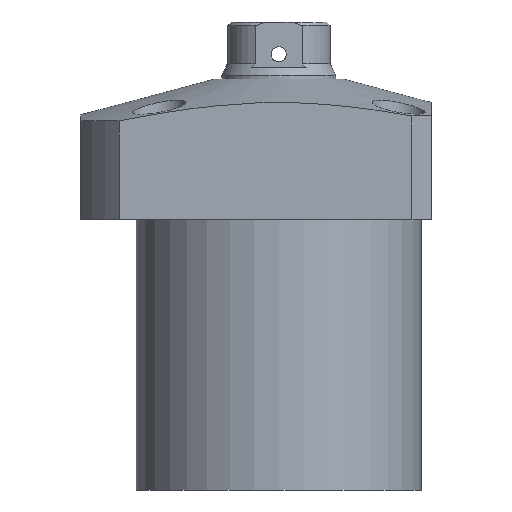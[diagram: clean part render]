
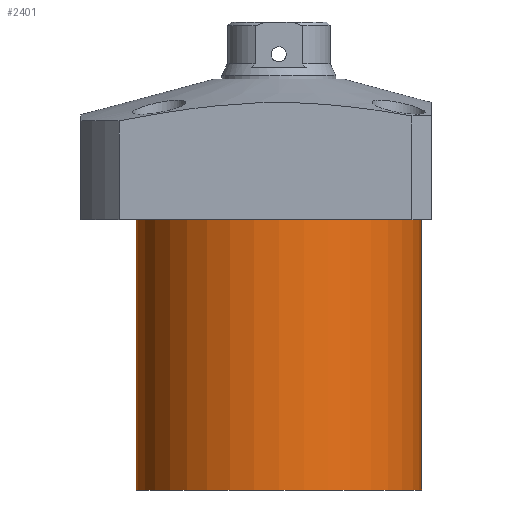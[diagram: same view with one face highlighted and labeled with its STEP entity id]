
A CAD part, front view. The second image highlights one B-rep face of the part: STEP entity #2401.
In plain terms, the highlighted cylindrical face has radius 37.5 mm (diameter 75 mm), a partial arc.
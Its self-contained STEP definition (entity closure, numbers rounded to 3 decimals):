
#53 = VECTOR ( 'NONE', #1359, 1000. ) ;
#62 = EDGE_CURVE ( 'NONE', #574, #2280, #366, .T. ) ;
#144 = FACE_OUTER_BOUND ( 'NONE', #1259, .T. ) ;
#148 = CIRCLE ( 'NONE', #2285, 37.5 ) ;
#233 = AXIS2_PLACEMENT_3D ( 'NONE', #2136, #2319, #2538 ) ;
#366 = CIRCLE ( 'NONE', #620, 37.5 ) ;
#374 = ORIENTED_EDGE ( 'NONE', *, *, #2112, .F. ) ;
#404 = CARTESIAN_POINT ( 'NONE',  ( 0., 0., -18.5 ) ) ;
#450 = CARTESIAN_POINT ( 'NONE',  ( -37.5, 0., -89.5 ) ) ;
#574 = VERTEX_POINT ( 'NONE', #1566 ) ;
#620 = AXIS2_PLACEMENT_3D ( 'NONE', #815, #1697, #2540 ) ;
#711 = ORIENTED_EDGE ( 'NONE', *, *, #2636, .T. ) ;
#726 = CARTESIAN_POINT ( 'NONE',  ( 37.5, 0., -89.5 ) ) ;
#815 = CARTESIAN_POINT ( 'NONE',  ( 0., 0., -89.5 ) ) ;
#981 = ORIENTED_EDGE ( 'NONE', *, *, #62, .F. ) ;
#1028 = LINE ( 'NONE', #726, #1432 ) ;
#1259 = EDGE_LOOP ( 'NONE', ( #374, #981, #711, #2519 ) ) ;
#1359 = DIRECTION ( 'NONE',  ( 0., 0., 1. ) ) ;
#1390 = DIRECTION ( 'NONE',  ( 0., 0., 1. ) ) ;
#1402 = CARTESIAN_POINT ( 'NONE',  ( -37.5, 0., -18.5 ) ) ;
#1432 = VECTOR ( 'NONE', #1390, 1000. ) ;
#1566 = CARTESIAN_POINT ( 'NONE',  ( 37.5, 0., -89.5 ) ) ;
#1650 = EDGE_CURVE ( 'NONE', #2790, #2696, #148, .T. ) ;
#1697 = DIRECTION ( 'NONE',  ( 0., 0., -1. ) ) ;
#1856 = LINE ( 'NONE', #450, #53 ) ;
#1892 = CYLINDRICAL_SURFACE ( 'NONE', #233, 37.5 ) ;
#2112 = EDGE_CURVE ( 'NONE', #2280, #2696, #1856, .T. ) ;
#2136 = CARTESIAN_POINT ( 'NONE',  ( 0., 0., -89.5 ) ) ;
#2149 = DIRECTION ( 'NONE',  ( 0., 0., -1. ) ) ;
#2280 = VERTEX_POINT ( 'NONE', #2718 ) ;
#2285 = AXIS2_PLACEMENT_3D ( 'NONE', #404, #2149, #2536 ) ;
#2319 = DIRECTION ( 'NONE',  ( 0., 0., 1. ) ) ;
#2401 = ADVANCED_FACE ( 'NONE', ( #144 ), #1892, .T. ) ;
#2519 = ORIENTED_EDGE ( 'NONE', *, *, #1650, .T. ) ;
#2536 = DIRECTION ( 'NONE',  ( 1., 0., 0. ) ) ;
#2538 = DIRECTION ( 'NONE',  ( 1., 0., 0. ) ) ;
#2540 = DIRECTION ( 'NONE',  ( -1., 0., 0. ) ) ;
#2636 = EDGE_CURVE ( 'NONE', #574, #2790, #1028, .T. ) ;
#2696 = VERTEX_POINT ( 'NONE', #1402 ) ;
#2718 = CARTESIAN_POINT ( 'NONE',  ( -37.5, 0., -89.5 ) ) ;
#2732 = CARTESIAN_POINT ( 'NONE',  ( 37.5, 0., -18.5 ) ) ;
#2790 = VERTEX_POINT ( 'NONE', #2732 ) ;
